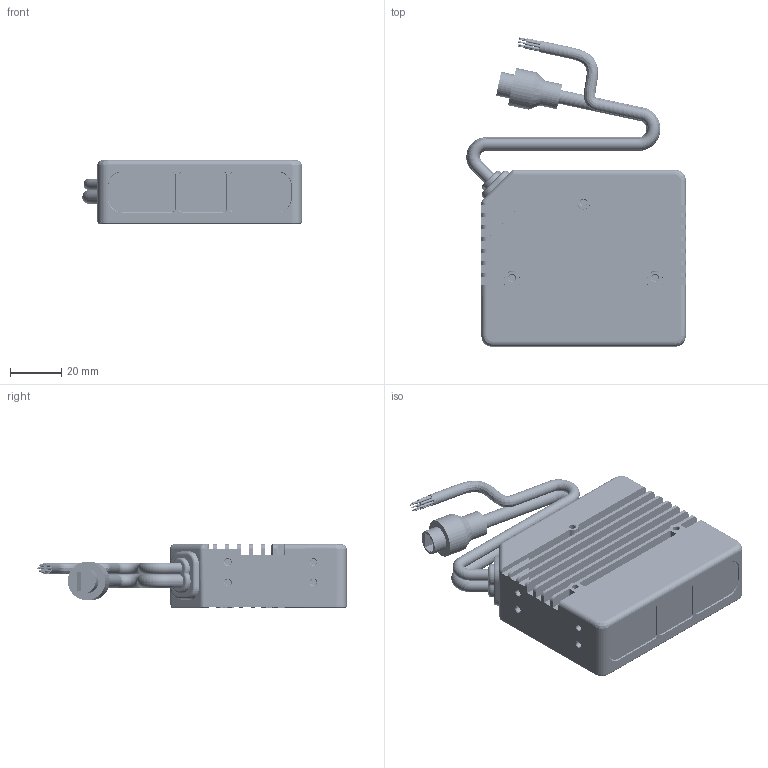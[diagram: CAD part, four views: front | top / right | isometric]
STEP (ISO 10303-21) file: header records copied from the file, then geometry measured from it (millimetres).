
FILE_DESCRIPTION((''),'2;1');
FILE_NAME('ASM0001_ASM','2026-08-14T11:06:27',('alan.fan'),(''),'CREO PARAMETRIC BY PTC INC, 2021023','CREO PARAMETRIC BY PTC INC, 2021023','');
FILE_SCHEMA(('CONFIG_CONTROL_DESIGN','GEOMETRIC_VALIDATION_PROPERTIES_MIM'));
Products named in the file (27): WAIKE-25MM_36_1; SR-20250120_1_1; SR-2025012000_1_1; TWO-SR_ASM_1_1_ASM; LENS_3_1; SHUANGMIANJIAO_5_1; 000_9_1; RGB-TOF-CAMERA-LENS_ASM_2_1_ASM; LASER-LENS-GLASS_3_1; LASER_LED_LENS_10_2_3_1; LASER_LED_LENS_ASM_1_1_ASM; TOF-LENS_1_1; TOF-SHUANGMIANJIAO_1_1; TOF-LENS_ASM_1_1_ASM; CAP-SCREW-M2X14-1015_1_1_2_1; CAP-SCREW-M2X14-1015_1_1_2_2; CAP-SCREW-M2X14-1015_1_1_2_ASM; O-RING-2X1_1_1; M2X5_1_1_2_3_1; M2X5_1_1_2_3_2; M2X5_1_1_2_3_3; M2X5_1_1_2_3_ASM; SCREW_ASM_2_1_ASM; 000_1_1; HOUKE25MM_15_1; 000_NYX310_TOP_LEVEL_V2-0724__1_ASM; ASM0001_ASM
Assembly tree (35 placements, depth 5):
  ASM0001_ASM
    000_NYX310_TOP_LEVEL_V2-0724__1_ASM
      WAIKE-25MM_36_1
      TWO-SR_ASM_1_1_ASM
        SR-20250120_1_1
        SR-2025012000_1_1
      RGB-TOF-CAMERA-LENS_ASM_2_1_ASM
        LENS_3_1
        SHUANGMIANJIAO_5_1
        000_9_1
      LASER_LED_LENS_ASM_1_1_ASM
        LASER-LENS-GLASS_3_1
        LASER_LED_LENS_10_2_3_1
      TOF-LENS_ASM_1_1_ASM
        TOF-LENS_1_1
        TOF-SHUANGMIANJIAO_1_1
      SCREW_ASM_2_1_ASM
        CAP-SCREW-M2X14-1015_1_1_2_ASM  x5
          CAP-SCREW-M2X14-1015_1_1_2_1
          CAP-SCREW-M2X14-1015_1_1_2_2
        O-RING-2X1_1_1  x4
        M2X5_1_1_2_3_ASM  x3
          M2X5_1_1_2_3_1
          M2X5_1_1_2_3_2
          M2X5_1_1_2_3_3
      000_1_1
      HOUKE25MM_15_1
Bounding box: 85.91 x 121.13 x 24.95 mm (x, y, z)
Volume: 55997.7 mm3; surface area: 61155.3 mm2
Topology: 35 solids, 35 shells, 3227 faces, 8659 edges, 5562 vertices
Faces by surface type: cylinder 1482, plane 936, bspline 338, cone 234, torus 195, sphere 38, extrusion 4
Entity records: 117422 total; most frequent: CARTESIAN_POINT 42176, ORIENTED_EDGE 11974, DIRECTION 10841, PRESENTATION_STYLE_ASSIGNMENT 6120, STYLED_ITEM 6118, EDGE_CURVE 5987, CURVE_STYLE 5963, AXIS2_PLACEMENT_3D 3887
